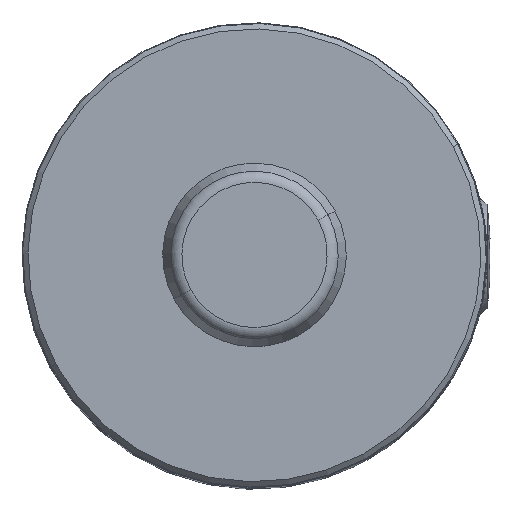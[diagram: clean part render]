
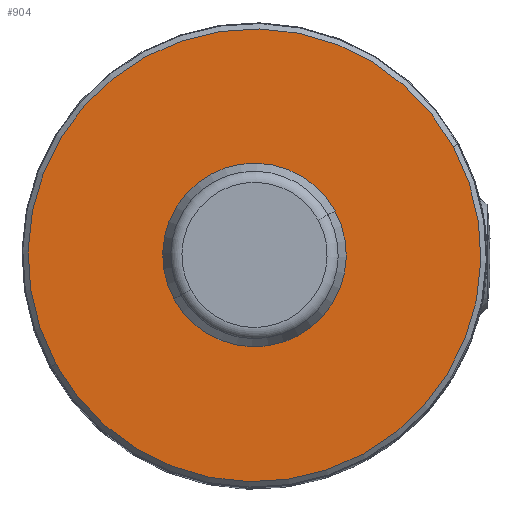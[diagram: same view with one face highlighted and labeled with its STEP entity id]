
A CAD part, top view. The second image highlights one B-rep face of the part: STEP entity #904.
In plain terms, the highlighted planar face has unit normal (0, 0, 1).
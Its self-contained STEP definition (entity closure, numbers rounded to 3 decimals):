
#881=CARTESIAN_POINT('Axis2P3D Location',(18.5,0.,64.)) ;
#886=CARTESIAN_POINT('Axis2P3D Location',(0.,0.,64.)) ;
#890=CARTESIAN_POINT('Vertex',(16.235,8.869,64.)) ;
#892=CARTESIAN_POINT('Vertex',(-16.235,-8.869,64.)) ;
#895=CARTESIAN_POINT('Axis2P3D Location',(0.,0.,64.)) ;
#882=DIRECTION('Axis2P3D Direction',(0.,0.,1.)) ;
#883=DIRECTION('Axis2P3D XDirection',(1.,0.,0.)) ;
#887=DIRECTION('Axis2P3D Direction',(0.,0.,1.)) ;
#896=DIRECTION('Axis2P3D Direction',(0.,0.,1.)) ;
#884=AXIS2_PLACEMENT_3D('Plane Axis2P3D',#881,#882,#883) ;
#888=AXIS2_PLACEMENT_3D('Circle Axis2P3D',#886,#887,$) ;
#897=AXIS2_PLACEMENT_3D('Circle Axis2P3D',#895,#896,$) ;
#901=ORIENTED_EDGE('',*,*,#894,.T.) ;
#902=ORIENTED_EDGE('',*,*,#899,.T.) ;
#904=ADVANCED_FACE('',(#903),#885,.T.) ;
#889=CIRCLE('generated circle',#888,18.5) ;
#898=CIRCLE('generated circle',#897,18.5) ;
#894=EDGE_CURVE('',#891,#893,#889,.T.) ;
#899=EDGE_CURVE('',#893,#891,#898,.T.) ;
#900=EDGE_LOOP('',(#901,#902)) ;
#903=FACE_OUTER_BOUND('',#900,.T.) ;
#885=PLANE('Plane',#884) ;
#891=VERTEX_POINT('',#890) ;
#893=VERTEX_POINT('',#892) ;
